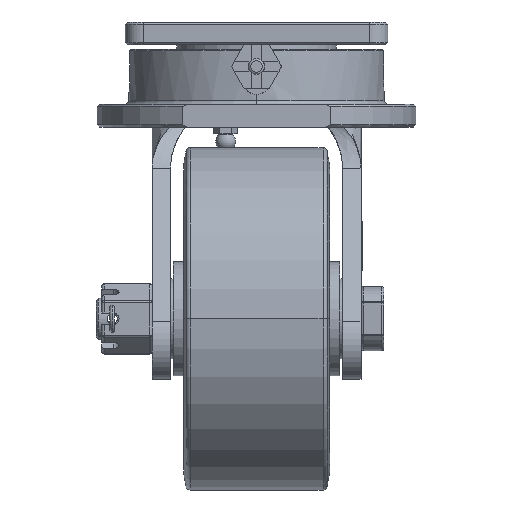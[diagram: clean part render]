
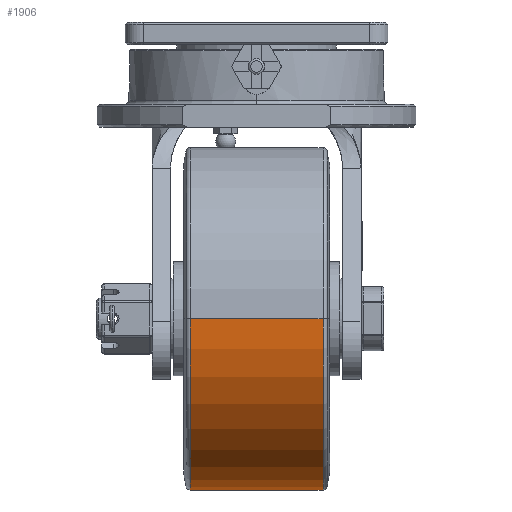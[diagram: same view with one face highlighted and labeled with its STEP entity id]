
A CAD part, left-side view. The second image highlights one B-rep face of the part: STEP entity #1906.
In plain terms, the highlighted cylindrical face has radius 75 mm (diameter 150 mm), a partial arc.
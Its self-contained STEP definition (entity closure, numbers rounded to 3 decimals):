
#863=CYLINDRICAL_SURFACE('',#12485,75.);
#1399=CIRCLE('',#12477,75.);
#1403=CIRCLE('',#12484,75.);
#1906=ADVANCED_FACE('',(#2905),#863,.T.);
#2905=FACE_OUTER_BOUND('',#3644,.T.);
#3644=EDGE_LOOP('',(#5975,#5976,#5977,#5978));
#5975=ORIENTED_EDGE('',*,*,#9691,.T.);
#5976=ORIENTED_EDGE('',*,*,#9695,.F.);
#5977=ORIENTED_EDGE('',*,*,#9697,.T.);
#5978=ORIENTED_EDGE('',*,*,#9696,.T.);
#8246=VERTEX_POINT('',#21653);
#8247=VERTEX_POINT('',#21655);
#8248=VERTEX_POINT('',#21661);
#8249=VERTEX_POINT('',#21662);
#9691=EDGE_CURVE('',#8247,#8246,#1399,.T.);
#9695=EDGE_CURVE('',#8249,#8246,#10736,.T.);
#9696=EDGE_CURVE('',#8248,#8247,#10737,.T.);
#9697=EDGE_CURVE('',#8249,#8248,#1403,.T.);
#10736=LINE('',#21663,#11461);
#10737=LINE('',#21664,#11462);
#11461=VECTOR('',#14786,1.);
#11462=VECTOR('',#14787,1.);
#12477=AXIS2_PLACEMENT_3D('',#21654,#14774,#14775);
#12484=AXIS2_PLACEMENT_3D('',#21666,#14790,#14791);
#12485=AXIS2_PLACEMENT_3D('',#21667,#14792,#14793);
#14774=DIRECTION('',(0.,1.,0.));
#14775=DIRECTION('',(1.,0.,0.));
#14786=DIRECTION('',(0.,-1.,0.));
#14787=DIRECTION('',(0.,-1.,0.));
#14790=DIRECTION('',(0.,-1.,0.));
#14791=DIRECTION('',(-1.,0.,0.));
#14792=DIRECTION('',(0.,-1.,0.));
#14793=DIRECTION('',(-1.,0.,0.));
#21653=CARTESIAN_POINT('',(-135.,-29.114,-130.));
#21654=CARTESIAN_POINT('',(-60.,-29.114,-130.));
#21655=CARTESIAN_POINT('',(15.,-29.114,-130.));
#21661=CARTESIAN_POINT('',(15.,29.114,-130.));
#21662=CARTESIAN_POINT('',(-135.,29.114,-130.));
#21663=CARTESIAN_POINT('',(-135.,29.114,-130.));
#21664=CARTESIAN_POINT('',(15.,29.114,-130.));
#21666=CARTESIAN_POINT('',(-60.,29.114,-130.));
#21667=CARTESIAN_POINT('',(-60.,35.2,-130.));
